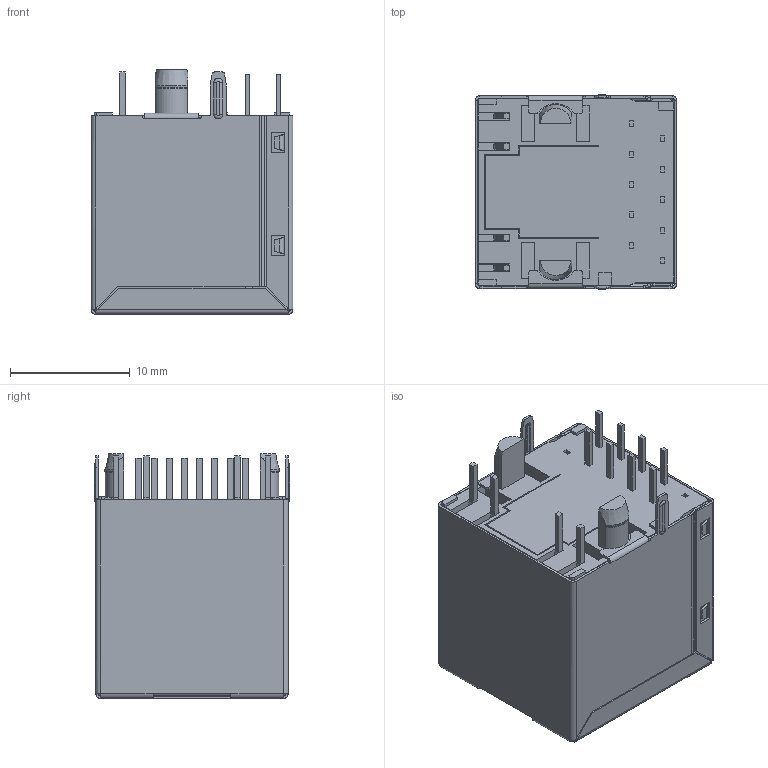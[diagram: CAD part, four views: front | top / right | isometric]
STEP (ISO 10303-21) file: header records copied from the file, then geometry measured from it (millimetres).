
FILE_DESCRIPTION((''),'2;1');
FILE_NAME('DGKYD511B048AA1A8D_1_','2024-04-03T17:24:57',('Administrator'),(''),'CREO PARAMETRIC BY PTC INC, 2019010','CREO PARAMETRIC BY PTC INC, 2019010','');
FILE_SCHEMA(('CONFIG_CONTROL_DESIGN'));
Length unit declared in the file: millimetre
Products named in the file (1): DGKYD511B048AA1A8D_1_
Bounding box: 16.85 x 16.3 x 20.45 mm (x, y, z)
Volume: 2719.1 mm3; surface area: 6294.3 mm2
Topology: 17 solids, 17 shells, 897 faces, 2363 edges, 1490 vertices
Faces by surface type: plane 674, cylinder 171, bspline 38, torus 8, sphere 4, cone 2
Entity records: 28262 total; most frequent: CARTESIAN_POINT 6029, ORIENTED_EDGE 4718, DIRECTION 4395, EDGE_CURVE 2359, VECTOR 1921, LINE 1921, VERTEX_POINT 1490, AXIS2_PLACEMENT_3D 1237
